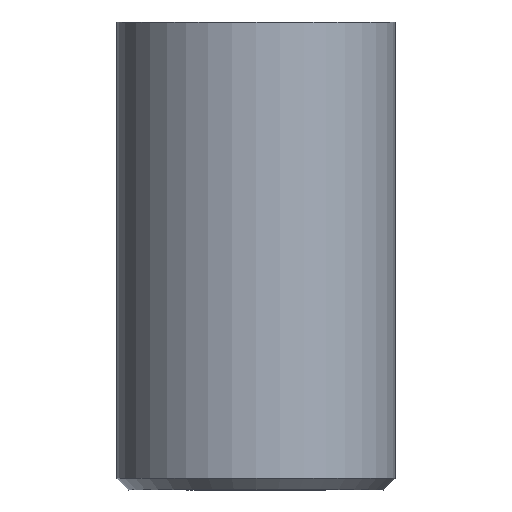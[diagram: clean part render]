
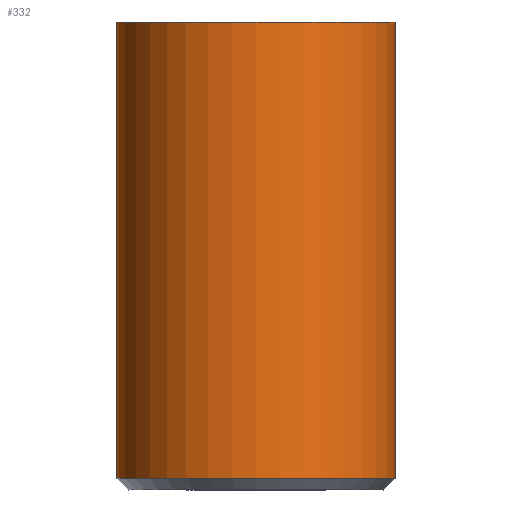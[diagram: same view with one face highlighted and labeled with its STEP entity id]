
A CAD part, front view. The second image highlights one B-rep face of the part: STEP entity #332.
In plain terms, the highlighted cylindrical face has radius 6 mm (diameter 12 mm), a partial arc.
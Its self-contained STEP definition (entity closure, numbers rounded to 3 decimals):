
#271=CARTESIAN_POINT('Vertex',(6.,0.,20.2)) ;
#273=CARTESIAN_POINT('Vertex',(-6.,0.,20.2)) ;
#276=CARTESIAN_POINT('Axis2P3D Location',(0.,0.,20.2)) ;
#290=CARTESIAN_POINT('Axis2P3D Location',(0.,0.,6.)) ;
#295=CARTESIAN_POINT('Line Origine',(-6.,0.,12.)) ;
#299=CARTESIAN_POINT('Vertex',(-6.,0.,0.5)) ;
#302=CARTESIAN_POINT('Line Origine',(6.,0.,12.)) ;
#306=CARTESIAN_POINT('Vertex',(6.,0.,0.5)) ;
#321=CARTESIAN_POINT('Axis2P3D Location',(0.,0.,0.5)) ;
#277=DIRECTION('Axis2P3D Direction',(0.,0.,1.)) ;
#291=DIRECTION('Axis2P3D Direction',(0.,0.,1.)) ;
#292=DIRECTION('Axis2P3D XDirection',(1.,0.,0.)) ;
#296=DIRECTION('Vector Direction',(0.,0.,1.)) ;
#303=DIRECTION('Vector Direction',(0.,0.,1.)) ;
#322=DIRECTION('Axis2P3D Direction',(0.,0.,1.)) ;
#278=AXIS2_PLACEMENT_3D('Circle Axis2P3D',#276,#277,$) ;
#293=AXIS2_PLACEMENT_3D('Cylinder Axis2P3D',#290,#291,#292) ;
#323=AXIS2_PLACEMENT_3D('Circle Axis2P3D',#321,#322,$) ;
#327=ORIENTED_EDGE('',*,*,#308,.T.) ;
#328=ORIENTED_EDGE('',*,*,#280,.F.) ;
#329=ORIENTED_EDGE('',*,*,#301,.F.) ;
#330=ORIENTED_EDGE('',*,*,#325,.T.) ;
#297=VECTOR('Line Direction',#296,1.) ;
#304=VECTOR('Line Direction',#303,1.) ;
#332=ADVANCED_FACE('\X2\96F64EF651E04F554F53\X0\',(#331),#294,.T.) ;
#279=CIRCLE('generated circle',#278,6.) ;
#324=CIRCLE('generated circle',#323,6.) ;
#294=CYLINDRICAL_SURFACE('generated cylinder',#293,6.) ;
#280=EDGE_CURVE('',#274,#272,#279,.T.) ;
#301=EDGE_CURVE('',#300,#274,#298,.T.) ;
#308=EDGE_CURVE('',#307,#272,#305,.T.) ;
#325=EDGE_CURVE('',#300,#307,#324,.T.) ;
#326=EDGE_LOOP('',(#327,#328,#329,#330)) ;
#331=FACE_OUTER_BOUND('',#326,.T.) ;
#298=LINE('Line',#295,#297) ;
#305=LINE('Line',#302,#304) ;
#272=VERTEX_POINT('',#271) ;
#274=VERTEX_POINT('',#273) ;
#300=VERTEX_POINT('',#299) ;
#307=VERTEX_POINT('',#306) ;
